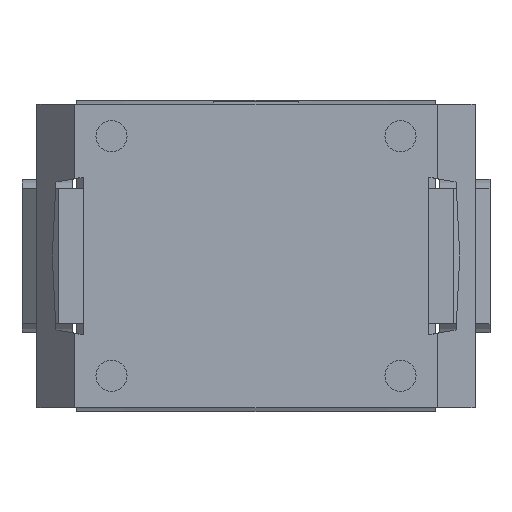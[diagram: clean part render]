
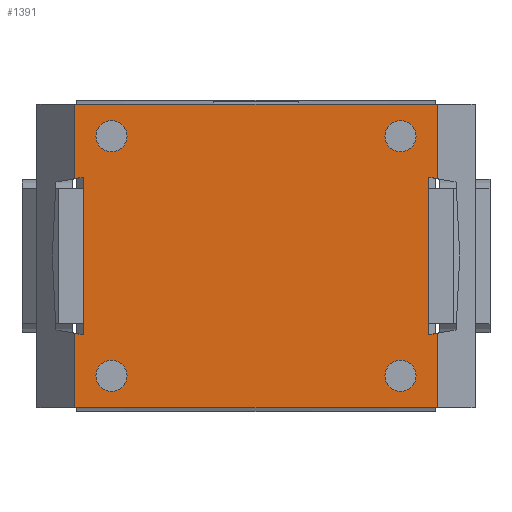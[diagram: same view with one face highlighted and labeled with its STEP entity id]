
A CAD part, front view. The second image highlights one B-rep face of the part: STEP entity #1391.
In plain terms, the highlighted planar face has unit normal (0, -1, 0).
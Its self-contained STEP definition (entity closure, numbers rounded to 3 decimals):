
#69=FACE_BOUND('',#233,.T.);
#70=FACE_BOUND('',#234,.T.);
#71=FACE_BOUND('',#235,.T.);
#72=FACE_BOUND('',#236,.T.);
#80=CIRCLE('',#1492,11.667);
#82=CIRCLE('',#1498,11.667);
#84=CIRCLE('',#1506,11.667);
#86=CIRCLE('',#1515,11.667);
#151=FACE_OUTER_BOUND('',#232,.T.);
#232=EDGE_LOOP('',(#1041,#1042,#1043,#1044,#1045,#1046,#1047,#1048,#1049,
#1050,#1051,#1052));
#233=EDGE_LOOP('',(#1053));
#234=EDGE_LOOP('',(#1054));
#235=EDGE_LOOP('',(#1055));
#236=EDGE_LOOP('',(#1056));
#293=LINE('',#1964,#437);
#300=LINE('',#1977,#444);
#304=LINE('',#1986,#448);
#322=LINE('',#2024,#466);
#331=LINE('',#2046,#475);
#337=LINE('',#2065,#481);
#342=LINE('',#2073,#486);
#345=LINE('',#2078,#489);
#353=LINE('',#2101,#497);
#356=LINE('',#2105,#500);
#360=LINE('',#2112,#504);
#366=LINE('',#2128,#510);
#437=VECTOR('',#1598,10.);
#444=VECTOR('',#1607,10.);
#448=VECTOR('',#1613,10.);
#466=VECTOR('',#1645,10.);
#475=VECTOR('',#1666,10.);
#481=VECTOR('',#1682,10.);
#486=VECTOR('',#1689,10.);
#489=VECTOR('',#1692,10.);
#497=VECTOR('',#1716,10.);
#500=VECTOR('',#1719,10.);
#504=VECTOR('',#1727,10.);
#510=VECTOR('',#1745,10.);
#581=VERTEX_POINT('',#1962);
#582=VERTEX_POINT('',#1963);
#587=VERTEX_POINT('',#1975);
#589=VERTEX_POINT('',#1980);
#591=VERTEX_POINT('',#1984);
#604=VERTEX_POINT('',#2023);
#605=VERTEX_POINT('',#2027);
#611=VERTEX_POINT('',#2044);
#612=VERTEX_POINT('',#2048);
#618=VERTEX_POINT('',#2062);
#619=VERTEX_POINT('',#2064);
#623=VERTEX_POINT('',#2076);
#626=VERTEX_POINT('',#2088);
#629=VERTEX_POINT('',#2098);
#630=VERTEX_POINT('',#2100);
#635=VERTEX_POINT('',#2121);
#713=EDGE_CURVE('',#581,#582,#293,.T.);
#720=EDGE_CURVE('',#587,#582,#300,.T.);
#724=EDGE_CURVE('',#591,#589,#304,.T.);
#742=EDGE_CURVE('',#604,#581,#322,.T.);
#744=EDGE_CURVE('',#605,#605,#80,.T.);
#753=EDGE_CURVE('',#611,#591,#331,.T.);
#754=EDGE_CURVE('',#612,#612,#82,.T.);
#761=EDGE_CURVE('',#619,#618,#337,.T.);
#766=EDGE_CURVE('',#604,#618,#342,.T.);
#769=EDGE_CURVE('',#587,#623,#345,.T.);
#774=EDGE_CURVE('',#626,#626,#84,.T.);
#779=EDGE_CURVE('',#629,#630,#353,.T.);
#782=EDGE_CURVE('',#611,#619,#356,.T.);
#786=EDGE_CURVE('',#629,#589,#360,.T.);
#791=EDGE_CURVE('',#635,#635,#86,.T.);
#794=EDGE_CURVE('',#630,#623,#366,.T.);
#1041=ORIENTED_EDGE('',*,*,#794,.F.);
#1042=ORIENTED_EDGE('',*,*,#779,.F.);
#1043=ORIENTED_EDGE('',*,*,#786,.T.);
#1044=ORIENTED_EDGE('',*,*,#724,.F.);
#1045=ORIENTED_EDGE('',*,*,#753,.F.);
#1046=ORIENTED_EDGE('',*,*,#782,.T.);
#1047=ORIENTED_EDGE('',*,*,#761,.T.);
#1048=ORIENTED_EDGE('',*,*,#766,.F.);
#1049=ORIENTED_EDGE('',*,*,#742,.T.);
#1050=ORIENTED_EDGE('',*,*,#713,.T.);
#1051=ORIENTED_EDGE('',*,*,#720,.F.);
#1052=ORIENTED_EDGE('',*,*,#769,.T.);
#1053=ORIENTED_EDGE('',*,*,#754,.F.);
#1054=ORIENTED_EDGE('',*,*,#744,.T.);
#1055=ORIENTED_EDGE('',*,*,#774,.F.);
#1056=ORIENTED_EDGE('',*,*,#791,.T.);
#1326=PLANE('',#1518);
#1391=ADVANCED_FACE('',(#151,#69,#70,#71,#72),#1326,.T.);
#1492=AXIS2_PLACEMENT_3D('',#2028,#1649,#1650);
#1498=AXIS2_PLACEMENT_3D('',#2049,#1669,#1670);
#1506=AXIS2_PLACEMENT_3D('',#2089,#1703,#1704);
#1515=AXIS2_PLACEMENT_3D('',#2122,#1736,#1737);
#1518=AXIS2_PLACEMENT_3D('',#2127,#1743,#1744);
#1598=DIRECTION('',(0.,0.,1.));
#1607=DIRECTION('',(-0.985,0.,0.174));
#1613=DIRECTION('',(0.,0.,1.));
#1645=DIRECTION('',(-0.985,0.,-0.174));
#1649=DIRECTION('center_axis',(0.,1.,0.));
#1650=DIRECTION('ref_axis',(-1.,0.,0.));
#1666=DIRECTION('',(0.985,0.,-0.174));
#1669=DIRECTION('center_axis',(0.,-1.,0.));
#1670=DIRECTION('ref_axis',(1.,0.,0.));
#1682=DIRECTION('',(1.,0.,0.));
#1689=DIRECTION('',(0.,0.,-1.));
#1692=DIRECTION('',(0.,0.,1.));
#1703=DIRECTION('center_axis',(0.,-1.,0.));
#1704=DIRECTION('ref_axis',(-1.,0.,0.));
#1716=DIRECTION('',(0.,0.,1.));
#1719=DIRECTION('',(0.,0.,-1.));
#1727=DIRECTION('',(0.985,0.,0.174));
#1736=DIRECTION('center_axis',(0.,1.,0.));
#1737=DIRECTION('ref_axis',(1.,0.,0.));
#1743=DIRECTION('center_axis',(0.,-1.,0.));
#1744=DIRECTION('ref_axis',(1.,0.,0.));
#1745=DIRECTION('',(1.,0.,0.));
#1962=CARTESIAN_POINT('',(129.748,-0.5,-59.163));
#1963=CARTESIAN_POINT('',(129.802,-0.5,59.153));
#1964=CARTESIAN_POINT('',(129.775,-0.5,0.001));
#1975=CARTESIAN_POINT('',(136.215,-0.5,58.022));
#1977=CARTESIAN_POINT('',(137.943,-0.5,57.718));
#1980=CARTESIAN_POINT('',(-129.802,-0.5,59.153));
#1984=CARTESIAN_POINT('',(-129.748,-0.5,-59.163));
#1986=CARTESIAN_POINT('',(-129.775,-0.5,0.001));
#2023=CARTESIAN_POINT('',(136.215,-0.5,-58.022));
#2024=CARTESIAN_POINT('',(137.943,-0.5,-57.718));
#2027=CARTESIAN_POINT('',(120.167,-0.5,-90.));
#2028=CARTESIAN_POINT('Origin',(108.5,-0.5,-90.));
#2044=CARTESIAN_POINT('',(-136.215,-0.5,-58.022));
#2046=CARTESIAN_POINT('',(-137.943,-0.5,-57.718));
#2048=CARTESIAN_POINT('',(-120.167,-0.5,-90.));
#2049=CARTESIAN_POINT('Origin',(-108.5,-0.5,-90.));
#2062=CARTESIAN_POINT('',(136.215,-0.5,-114.076));
#2064=CARTESIAN_POINT('',(-136.215,-0.5,-114.076));
#2065=CARTESIAN_POINT('',(-160.,-0.5,-114.076));
#2073=CARTESIAN_POINT('',(136.215,-0.5,0.));
#2076=CARTESIAN_POINT('',(136.215,-0.5,114.076));
#2078=CARTESIAN_POINT('',(136.215,-0.5,0.));
#2088=CARTESIAN_POINT('',(120.167,-0.5,90.));
#2089=CARTESIAN_POINT('Origin',(108.5,-0.5,90.));
#2098=CARTESIAN_POINT('',(-136.215,-0.5,58.022));
#2100=CARTESIAN_POINT('',(-136.215,-0.5,114.076));
#2101=CARTESIAN_POINT('',(-136.215,-0.5,0.));
#2105=CARTESIAN_POINT('',(-136.215,-0.5,0.));
#2112=CARTESIAN_POINT('',(-137.943,-0.5,57.718));
#2121=CARTESIAN_POINT('',(-120.167,-0.5,90.));
#2122=CARTESIAN_POINT('Origin',(-108.5,-0.5,90.));
#2127=CARTESIAN_POINT('Origin',(-136.215,-0.5,0.));
#2128=CARTESIAN_POINT('',(-160.,-0.5,114.076));
